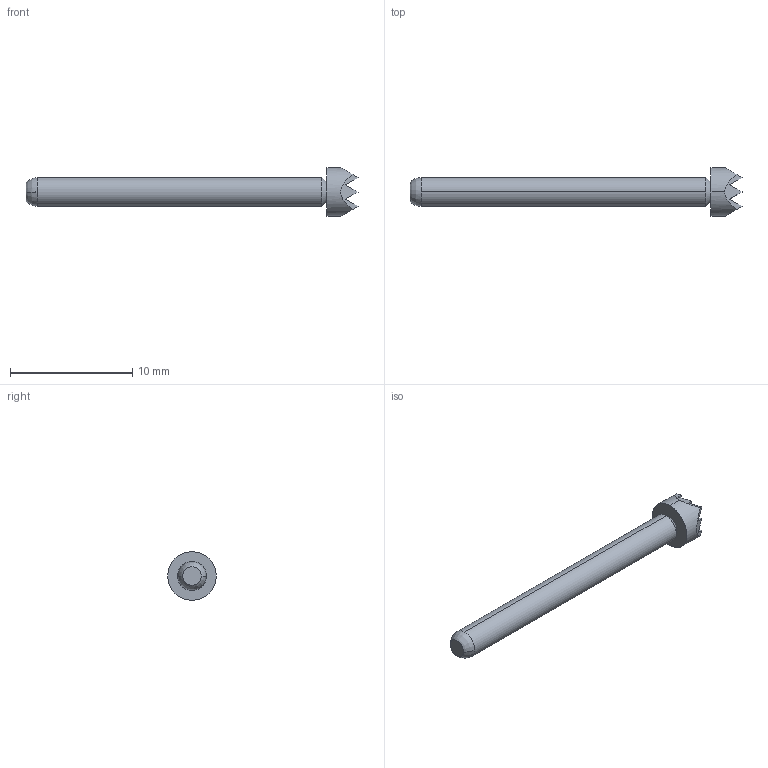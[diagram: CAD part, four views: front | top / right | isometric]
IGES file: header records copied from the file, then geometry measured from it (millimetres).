
Start section: SolidWorks IGES file using analytic representation for surfaces
Global section: file name: Z:\probe solid model mockups\Solidworks models\IGES Files\EPA-4 IGES files\EPA-4H Full.IGS; native system: SolidWorks 2006 by SolidWorks Corporation; preprocessor: SolidWorks 2006 by SolidWorks Corporation; author: tsakatani; date: 080103.104509; units: inch
Bounding box: 27.18 x 3.96 x 3.96 mm (x, y, z)
Surface area: 238.8 mm2 (no closed solid volume)
Topology: 0 solids, 0 shells, 38 faces, 258 edges, 258 vertices
Faces by surface type: bspline 30, revolution 8
